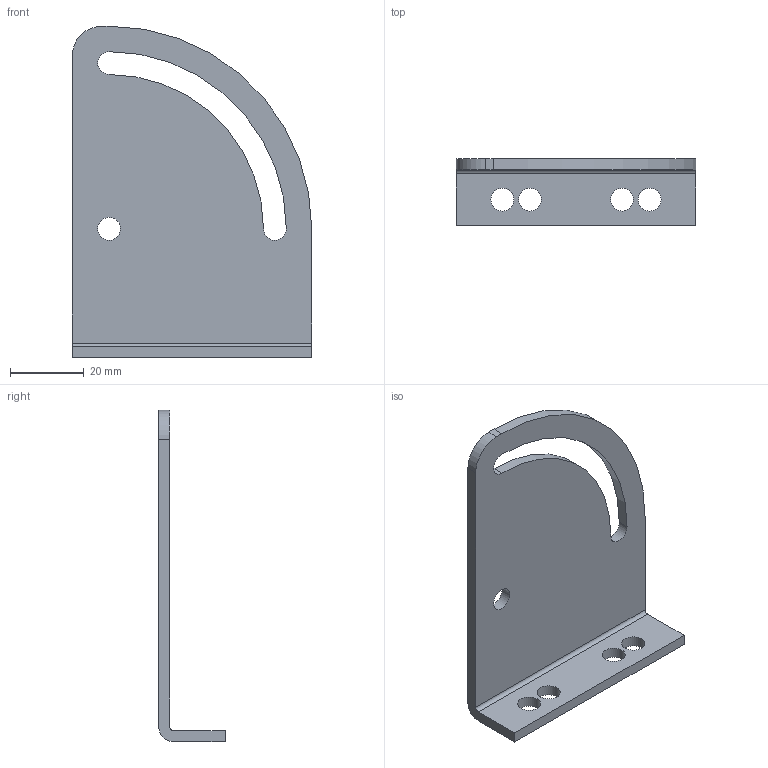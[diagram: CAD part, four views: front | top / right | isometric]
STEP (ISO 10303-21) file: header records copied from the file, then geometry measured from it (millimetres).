
FILE_DESCRIPTION(('STEP AP214'),'1');
FILE_NAME('CA.04.10.56.2.stp','2018-07-30T10:29:21',(' '),(' '),'Spatial InterOp 3D',' ',' ');
FILE_SCHEMA(('AUTOMOTIVE_DESIGN { 1 0 10303 214 1 1 1 1 }'));
Length unit declared in the file: millimetre
Products named in the file (1): 04.10.56.2
Bounding box: 65 x 18 x 90 mm (x, y, z)
Volume: 16418.9 mm3; surface area: 12653.1 mm2
Topology: 1 solids, 1 shells, 21 faces, 62 edges, 43 vertices
Faces by surface type: cylinder 13, plane 8
Full cylindrical faces by diameter (mm): 6.2 x5
Entity records: 860 total; most frequent: DIRECTION 122, CARTESIAN_POINT 112, ORIENTED_EDGE 104, EDGE_CURVE 52, AXIS2_PLACEMENT_3D 48, EDGE_LOOP 38, VERTEX_POINT 38, FACE_OUTER_BOUND 26
